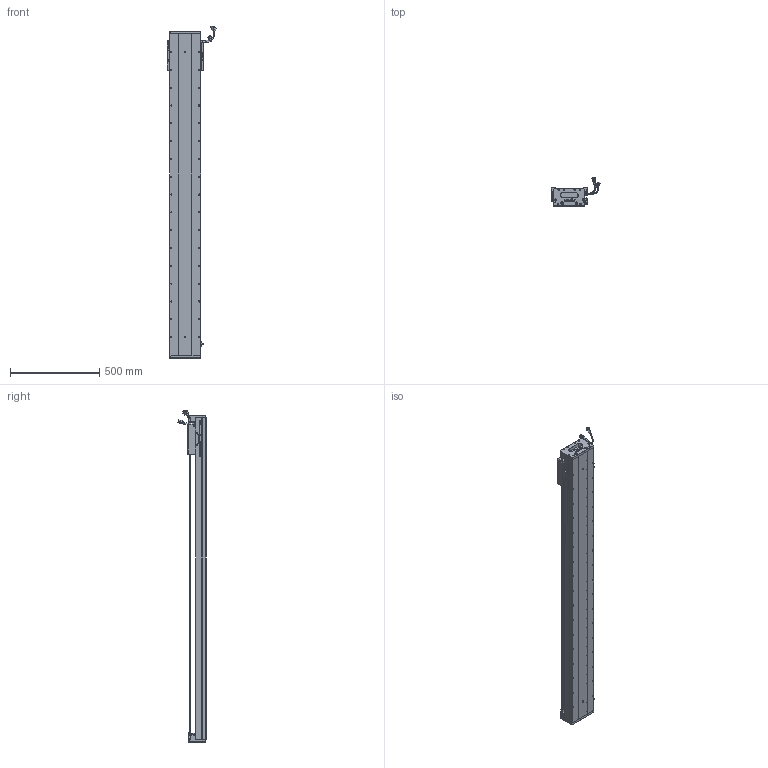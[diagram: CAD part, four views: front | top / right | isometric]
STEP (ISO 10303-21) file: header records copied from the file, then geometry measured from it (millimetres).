
FILE_DESCRIPTION (( 'STEP AP203' ), '1' );
FILE_NAME ('Z2-RY170D-1-L500-B-K.SLDASM_1550.step', '2021-05-17T09:08:29', ( '盈信电脑' ), ( '东莞市道滘镇水果街19号' ), 'SwSTEP 2.0', 'SolidWorks 2016', '' );
FILE_SCHEMA (( 'CONFIG_CONTROL_DESIGN' ));
Length unit declared in the file: millimetre
Products named in the file (36): SEAL-Part-1; SCALE-Part-1; SCREW-M1.6; Z2-RY170D-1-L500-B-K.SLDASM_1550; 080黍杅芛假蚾釱21遴; RY170直线电机感应器672光电感应片; SCREW-M1.6-1; SCALE-Part-2; 140雄赽晤鎢ん堤盄; LABEL; Z2-RY170-L500耀郪菁釱_1550; SCALE; HOLDER0; PSLH080_PSLF2; Z2-RY170臏賑輸(21遴); HARNESS-Part-2; SEAL; SCREW-M1.7-1; 榋妏寠巭燃_暯_M2_2; COVER-Part-1; SHIELDPLATE; 140蚥薯蝶輸; Z-170詩湍傷裔啣; SCREW-M1.7; Z-RY170詩湍狟揤裔; HARNESS; LABEL-Part-1; 170-Z-臏賑輸盄裔(21遴); 覜茼ん672; HARNESS-Part-1; SCREW-M1.6-2; Z-RY170詩湍奻揤裔; SCREW-M1.6-3; PBU_SHEET; COVER; Z2-RY170-L500詩湍145mm遵_1550
Assembly tree (41 placements, depth 4):
  Z2-RY170D-1-L500-B-K.SLDASM_1550
    Z2-RY170-L500耀郪菁釱_1550
    RY170直线电机感应器672光电感应片
    Z2-RY170臏賑輸(21遴)
    覜茼ん672  x3
    PSLH080_PSLF2
      SCALE
        SCALE-Part-1
        SCALE-Part-2
      HARNESS
        HARNESS-Part-1
        HARNESS-Part-2
      LABEL
        LABEL-Part-1
      COVER
        COVER-Part-1
      SEAL
        SEAL-Part-1
      榋妏寠巭燃_暯_M2_2
      SHIELDPLATE
      SCREW-M1.7
      SCREW-M1.7-1
      PBU_SHEET
      SCREW-M1.6
      SCREW-M1.6-1
      SCREW-M1.6-2
      SCREW-M1.6-3
      HOLDER0
    080黍杅芛假蚾釱21遴
    Z2-RY170-L500詩湍145mm遵_1550
    Z-170詩湍傷裔啣  x2
    Z-RY170詩湍奻揤裔  x2
    Z-RY170詩湍狟揤裔  x2
    140蚥薯蝶輸  x2
    170-Z-臏賑輸盄裔(21遴)
    140雄赽晤鎢ん堤盄
Bounding box: 275.33 x 158.11 x 1863.72 mm (x, y, z)
Volume: 9512127.8 mm3; surface area: 2342169.5 mm2
Topology: 36 solids, 36 shells, 3506 faces, 9549 edges, 5977 vertices
Faces by surface type: cylinder 1680, plane 1228, cone 476, torus 69, bspline 53
Entity records: 106557 total; most frequent: CARTESIAN_POINT 28478, ORIENTED_EDGE 15750, DIRECTION 15099, EDGE_CURVE 7875, AXIS2_PLACEMENT_3D 5548, VERTEX_POINT 5095, VECTOR 4003, LINE 4003
